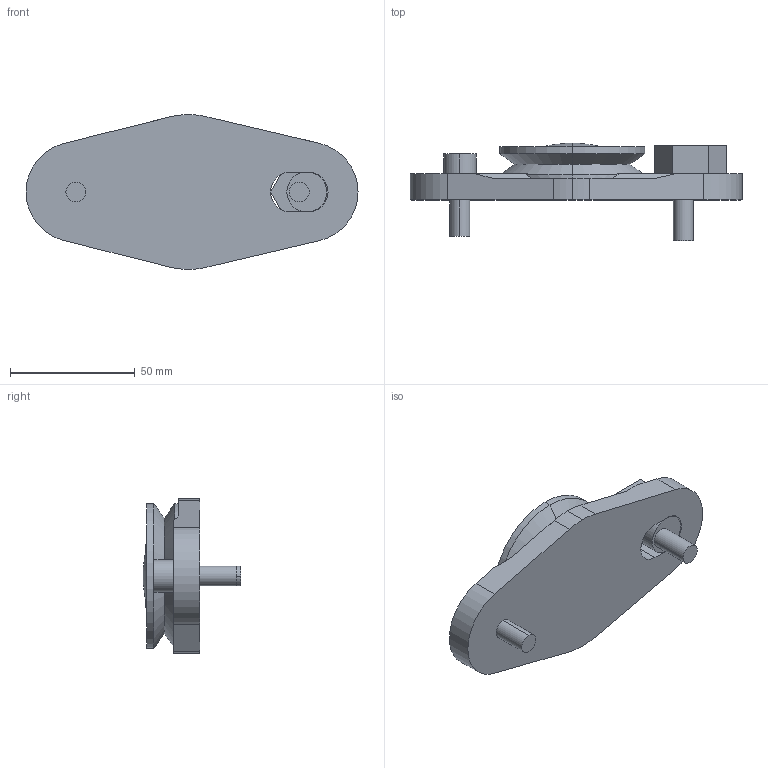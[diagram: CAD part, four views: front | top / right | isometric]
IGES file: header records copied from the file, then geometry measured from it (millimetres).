
Start section: 3D InterOp IGES (v. 2019 1.0.2), Spatial Corp. Copyright (c) 1999-2017.
Global section: file name: GBHJ 580 E.igs; native system: Spatial Corp.; preprocessor: 3D InterOp GENERIC/IGES 3.0; author: Noname; organization: Noname; date: 20220628.170609; units: millimetre
Bounding box: 133 x 39.2 x 62 mm (x, y, z)
Surface area: 22363.6 mm2 (no closed solid volume)
Topology: 0 solids, 0 shells, 67 faces, 322 edges, 322 vertices
Faces by surface type: extrusion 39, revolution 28
